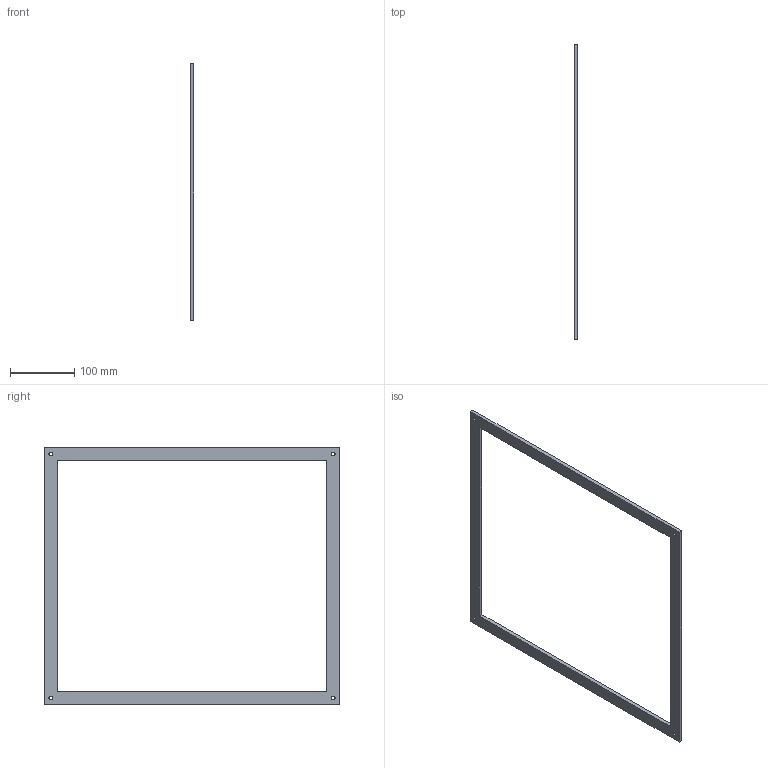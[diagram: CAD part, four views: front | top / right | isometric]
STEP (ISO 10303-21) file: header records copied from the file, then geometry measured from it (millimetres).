
FILE_DESCRIPTION(('Open CASCADE Model'),'2;1');
FILE_NAME('Open CASCADE Shape Model','2026-10-16T18:03:45',('Author'),( 'Open CASCADE'),'Open CASCADE STEP processor 7.8','Open CASCADE 7.8' ,'Unknown');
FILE_SCHEMA(('AUTOMOTIVE_DESIGN { 1 0 10303 214 1 1 1 1 }'));
Length unit declared in the file: millimetre
Products named in the file (1): Open CASCADE STEP translator 7.8 14
Bounding box: 6 x 460 x 400 mm (x, y, z)
Volume: 196229.8 mm3; surface area: 85504.6 mm2
Topology: 1 solids, 1 shells, 14 faces, 36 edges, 24 vertices
Faces by surface type: plane 10, cylinder 4
Full cylindrical faces by diameter (mm): 5.5 x4
Entity records: 950 total; most frequent: CARTESIAN_POINT 195, DIRECTION 138, LINE 92, VECTOR 92, ORIENTED_EDGE 72, PCURVE 72, DEFINITIONAL_REPRESENTATION 72, EDGE_CURVE 36
